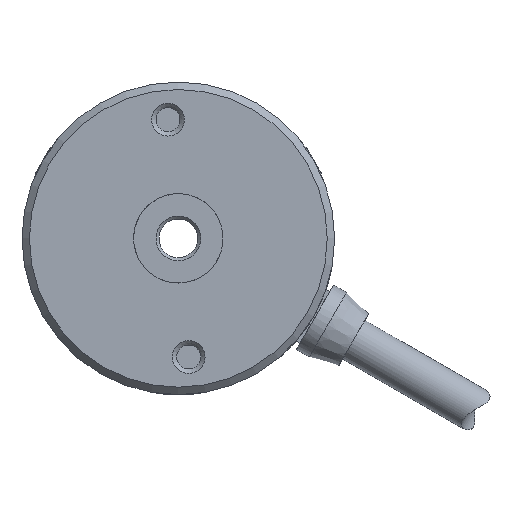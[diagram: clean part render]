
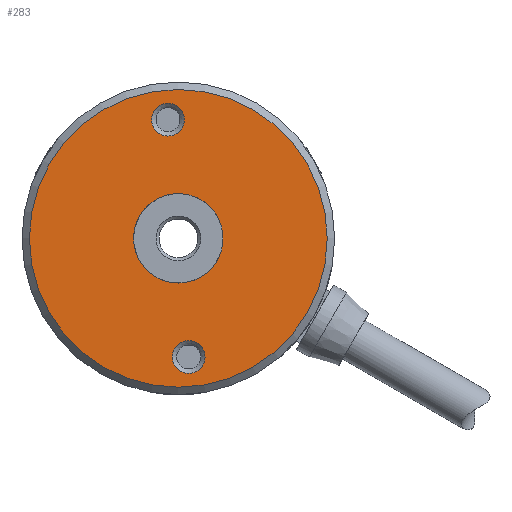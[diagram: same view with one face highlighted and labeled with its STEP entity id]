
A CAD part, left-side view. The second image highlights one B-rep face of the part: STEP entity #283.
In plain terms, the highlighted planar face has unit normal (-1, 0, 0).
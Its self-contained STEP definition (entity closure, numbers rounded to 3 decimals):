
#283=ADVANCED_FACE('',(#612,#613,#614,#615),#616,.F.);
#612=FACE_BOUND('',#1020,.T.);
#613=FACE_BOUND('',#1021,.T.);
#614=FACE_BOUND('',#1022,.T.);
#615=FACE_OUTER_BOUND('',#1023,.T.);
#616=PLANE('',#1024);
#1020=EDGE_LOOP('',(#1596));
#1021=EDGE_LOOP('',(#1597));
#1022=EDGE_LOOP('',(#1598));
#1023=EDGE_LOOP('',(#1599));
#1024=AXIS2_PLACEMENT_3D('',#1600,#1601,#1602);
#1596=ORIENTED_EDGE('',*,*,#2307,.F.);
#1597=ORIENTED_EDGE('',*,*,#2278,.T.);
#1598=ORIENTED_EDGE('',*,*,#2284,.T.);
#1599=ORIENTED_EDGE('',*,*,#2299,.T.);
#1600=CARTESIAN_POINT('',(0.,2.7,0.0));
#1601=DIRECTION('',(1.0,0.0,0.0));
#1602=DIRECTION('',(0.0,0.0,-1.0));
#2278=EDGE_CURVE('',#2681,#2681,#2682,.T.);
#2284=EDGE_CURVE('',#2691,#2691,#2692,.T.);
#2299=EDGE_CURVE('',#2717,#2717,#2718,.F.);
#2307=EDGE_CURVE('',#2729,#2729,#2730,.F.);
#2681=VERTEX_POINT('',#3306);
#2682=CIRCLE('',#3307,1.1);
#2691=VERTEX_POINT('',#3316);
#2692=CIRCLE('',#3317,1.1);
#2717=VERTEX_POINT('',#3377);
#2718=CIRCLE('',#3378,10.0);
#2729=VERTEX_POINT('',#3389);
#2730=CIRCLE('',#3390,3.0);
#3306=CARTESIAN_POINT('',(0.,-0.403,7.97));
#3307=AXIS2_PLACEMENT_3D('',#4085,#4086,#4087);
#3316=CARTESIAN_POINT('',(0.,-1.797,-7.97));
#3317=AXIS2_PLACEMENT_3D('',#4097,#4098,#4099);
#3377=CARTESIAN_POINT('',(0.,0.,-10.0));
#3378=AXIS2_PLACEMENT_3D('',#4126,#4127,#4128);
#3389=CARTESIAN_POINT('',(0.,0.,-3.0));
#3390=AXIS2_PLACEMENT_3D('',#4138,#4139,#4140);
#4085=CARTESIAN_POINT('',(0.,0.697,7.97));
#4086=DIRECTION('',(1.0,0.0,0.0));
#4087=DIRECTION('',(0.0,-1.0,0.0));
#4097=CARTESIAN_POINT('',(0.,-0.697,-7.97));
#4098=DIRECTION('',(1.0,0.0,0.0));
#4099=DIRECTION('',(0.0,-1.0,0.0));
#4126=CARTESIAN_POINT('',(0.,0.0,0.0));
#4127=DIRECTION('',(1.0,0.0,0.0));
#4128=DIRECTION('',(0.0,0.0,-1.0));
#4138=CARTESIAN_POINT('',(0.,0.,0.));
#4139=DIRECTION('',(1.0,0.0,0.0));
#4140=DIRECTION('',(0.0,0.0,-1.0));
